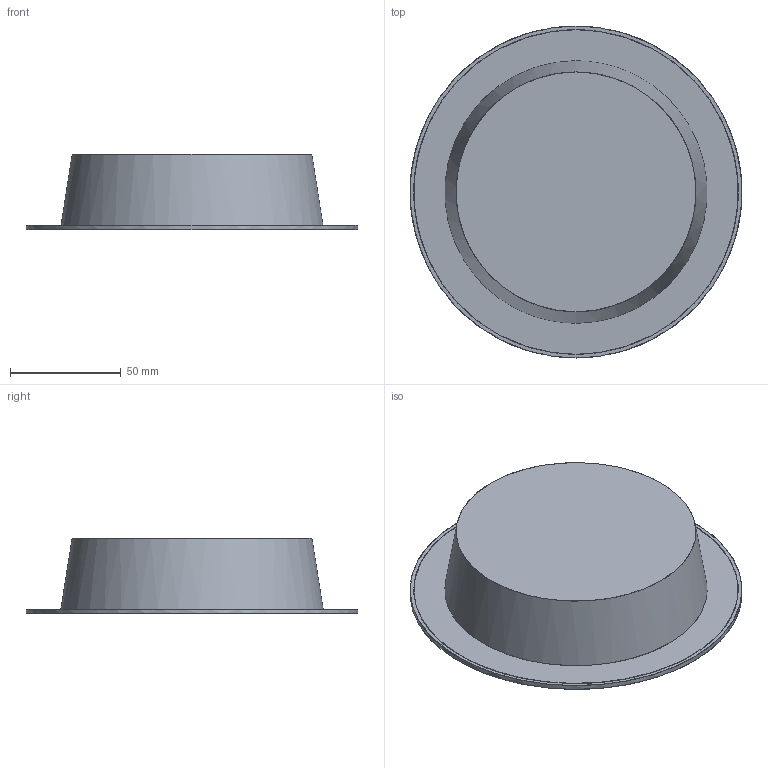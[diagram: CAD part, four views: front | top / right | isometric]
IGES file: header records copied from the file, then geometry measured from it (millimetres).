
Start section: SolidWorks IGES file using NURBS representation for surfaces
Global section: file name: Z:\Modele 3D_WWW\_Commercial\CL-KOS-LED\CL-KOS-LED-10W-8780-8778\CL-KOS-LED-10W-8780-8778.IGS; native system: SolidWorks 2021; preprocessor: SolidWorks 2021; author: gabriela.tworek; date: 220218.140113; units: millimetre
Bounding box: 149.85 x 150.08 x 34.17 mm (x, y, z)
Surface area: 73718.6 mm2 (no closed solid volume)
Topology: 0 solids, 0 shells, 14 faces, 55 edges, 48 vertices
Faces by surface type: bspline 14
